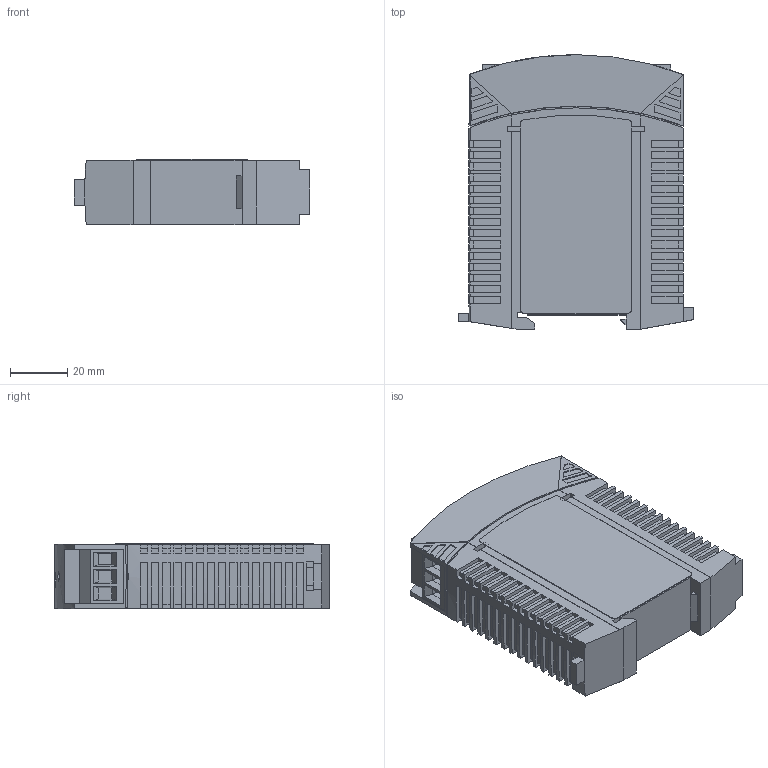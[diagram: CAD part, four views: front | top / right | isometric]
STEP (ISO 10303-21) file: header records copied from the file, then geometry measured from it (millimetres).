
FILE_DESCRIPTION((''),'2;1');
FILE_NAME('1606-XLP15','2008-08-19T',('WJPreisc'),('Rockwell Automation'),'PRO/ENGINEER BY PARAMETRIC TECHNOLOGY CORPORATION, 2005110','PRO/ENGINEER BY PARAMETRIC TECHNOLOGY CORPORATION, 2005110','');
FILE_SCHEMA(('CONFIG_CONTROL_DESIGN'));
Length unit declared in the file: millimetre
Products named in the file (1): 1606-XLP15
Bounding box: 82.5 x 96 x 22.75 mm (x, y, z)
Volume: 146997.6 mm3; surface area: 26648 mm2
Topology: 1 solids, 1 shells, 768 faces, 2169 edges, 1432 vertices
Faces by surface type: plane 694, cylinder 74
Entity records: 24604 total; most frequent: CARTESIAN_POINT 4449, ORIENTED_EDGE 4338, DIRECTION 3946, EDGE_CURVE 2169, VECTOR 1904, LINE 1904, VERTEX_POINT 1432, AXIS2_PLACEMENT_3D 1021
